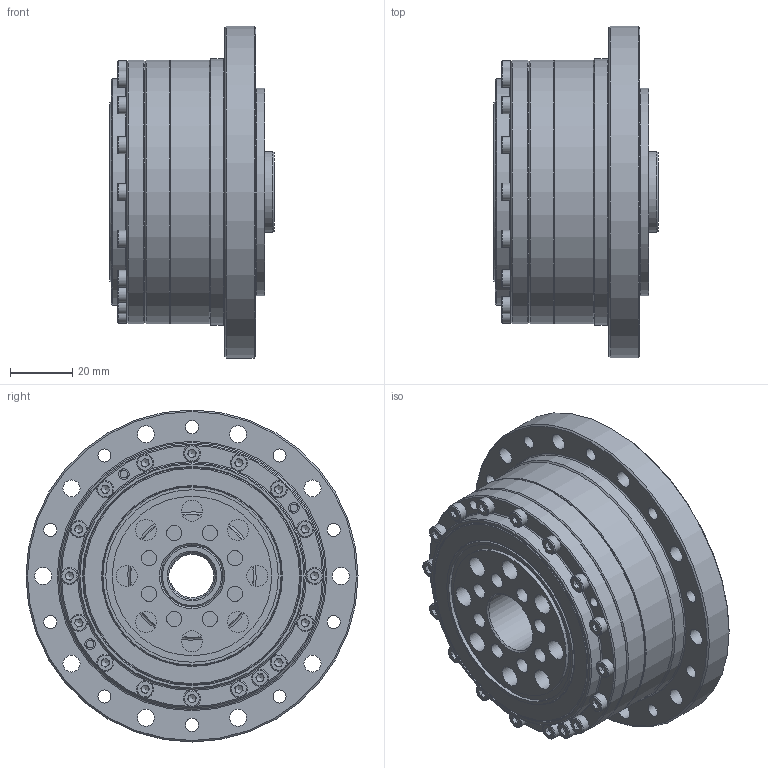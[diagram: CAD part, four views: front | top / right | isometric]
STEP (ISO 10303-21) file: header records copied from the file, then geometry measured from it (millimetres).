
FILE_DESCRIPTION (( 'STEP AP203' ), '1' );
FILE_NAME ('LCSG-25-XXX-C-II-D1.STEP', '2025-07-10T04:58:07', ( '' ), ( '' ), 'SwSTEP 2.0', 'SolidWorks 2023', '' );
FILE_SCHEMA (( 'CONFIG_CONTROL_DESIGN' ));
Length unit declared in the file: millimetre
Products named in the file (1): LCSG-25-XXX-C-II-D1
Bounding box: 53 x 107 x 107 mm (x, y, z)
Volume: 204189.9 mm3; surface area: 135756 mm2
Topology: 63 solids, 63 shells, 1028 faces, 2390 edges, 1497 vertices
Faces by surface type: plane 522, cylinder 287, cone 121, torus 75, sphere 23
Full cylindrical faces by diameter (mm): 2 x2, 2.5 x22, 3 x21, 3.4 x36, 4.2 x10, 5 x8, 5.5 x27, 6 x8, 6.6 x16, 6.8 x8, 10 x8, 15 x1, 20 x3, 24.9 x1, 26 x2, 27 x3, 32.5 x2, 40 x1, 41 x1, 42 x2, 45 x1, 45.22 x1, 48 x1, 48.39 x2, 50.1 x1, 51.4 x1, 53 x2, 55.6 x1, 56.6 x1, 58 x1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
Entity records: 26225 total; most frequent: DIRECTION 4822, CARTESIAN_POINT 4311, ORIENTED_EDGE 3634, AXIS2_PLACEMENT_3D 2012, EDGE_CURVE 1817, EDGE_LOOP 1698, VERTEX_POINT 1357, FACE_OUTER_BOUND 1310
